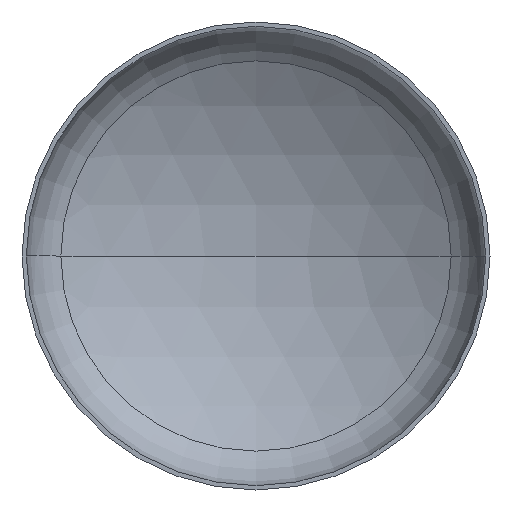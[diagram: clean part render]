
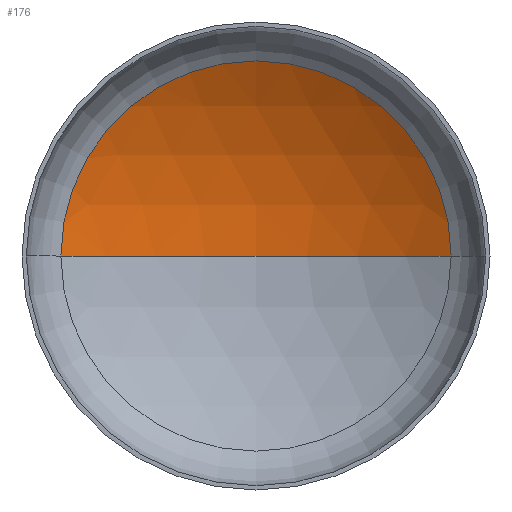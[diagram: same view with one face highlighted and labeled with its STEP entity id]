
A CAD part, front view. The second image highlights one B-rep face of the part: STEP entity #176.
In plain terms, the highlighted spherical face has radius 6000 mm.
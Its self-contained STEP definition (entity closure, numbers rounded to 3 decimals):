
#9 = VERTEX_POINT ( 'NONE', #276 ) ;
#37 = AXIS2_PLACEMENT_3D ( 'NONE', #141, #38, #219 ) ;
#38 = DIRECTION ( 'NONE',  ( 0., 0., -1. ) ) ;
#56 = AXIS2_PLACEMENT_3D ( 'NONE', #292, #191, #383 ) ;
#57 = AXIS2_PLACEMENT_3D ( 'NONE', #165, #166, #385 ) ;
#61 = AXIS2_PLACEMENT_3D ( 'NONE', #195, #188, #184 ) ;
#108 = EDGE_CURVE ( 'NONE', #290, #139, #194, .T. ) ;
#110 = EDGE_CURVE ( 'NONE', #9, #290, #259, .T. ) ;
#114 = EDGE_CURVE ( 'NONE', #9, #139, #403, .T. ) ;
#126 = CARTESIAN_POINT ( 'NONE',  ( 3126.935, 1105.748, 0. ) ) ;
#139 = VERTEX_POINT ( 'NONE', #258 ) ;
#141 = CARTESIAN_POINT ( 'NONE',  ( 0., -4015.021, 0. ) ) ;
#165 = CARTESIAN_POINT ( 'NONE',  ( 0., -4015.021, 0. ) ) ;
#166 = DIRECTION ( 'NONE',  ( 0., 0., -1. ) ) ;
#176 = ADVANCED_FACE ( 'NONE', ( #311 ), #317, .F. ) ;
#184 = DIRECTION ( 'NONE',  ( 1., 0., 0. ) ) ;
#188 = DIRECTION ( 'NONE',  ( 0., -1., 0. ) ) ;
#191 = DIRECTION ( 'NONE',  ( 0., 0., 1. ) ) ;
#194 = CIRCLE ( 'NONE', #61, 3126.935 ) ;
#195 = CARTESIAN_POINT ( 'NONE',  ( 0., 1105.748, 0. ) ) ;
#219 = DIRECTION ( 'NONE',  ( -1., 0., 0. ) ) ;
#230 = ORIENTED_EDGE ( 'NONE', *, *, #110, .T. ) ;
#258 = CARTESIAN_POINT ( 'NONE',  ( -3126.935, 1105.748, 0. ) ) ;
#259 = CIRCLE ( 'NONE', #57, 6000. ) ;
#276 = CARTESIAN_POINT ( 'NONE',  ( 0., 1984.979, 0. ) ) ;
#287 = ORIENTED_EDGE ( 'NONE', *, *, #108, .T. ) ;
#290 = VERTEX_POINT ( 'NONE', #126 ) ;
#292 = CARTESIAN_POINT ( 'NONE',  ( 0., -4015.021, 0. ) ) ;
#311 = FACE_OUTER_BOUND ( 'NONE', #376, .T. ) ;
#317 = SPHERICAL_SURFACE ( 'NONE', #37, 6000. ) ;
#336 = ORIENTED_EDGE ( 'NONE', *, *, #114, .F. ) ;
#376 = EDGE_LOOP ( 'NONE', ( #336, #230, #287 ) ) ;
#383 = DIRECTION ( 'NONE',  ( 1., 0., 0. ) ) ;
#385 = DIRECTION ( 'NONE',  ( -1., 0., 0. ) ) ;
#403 = CIRCLE ( 'NONE', #56, 6000. ) ;
